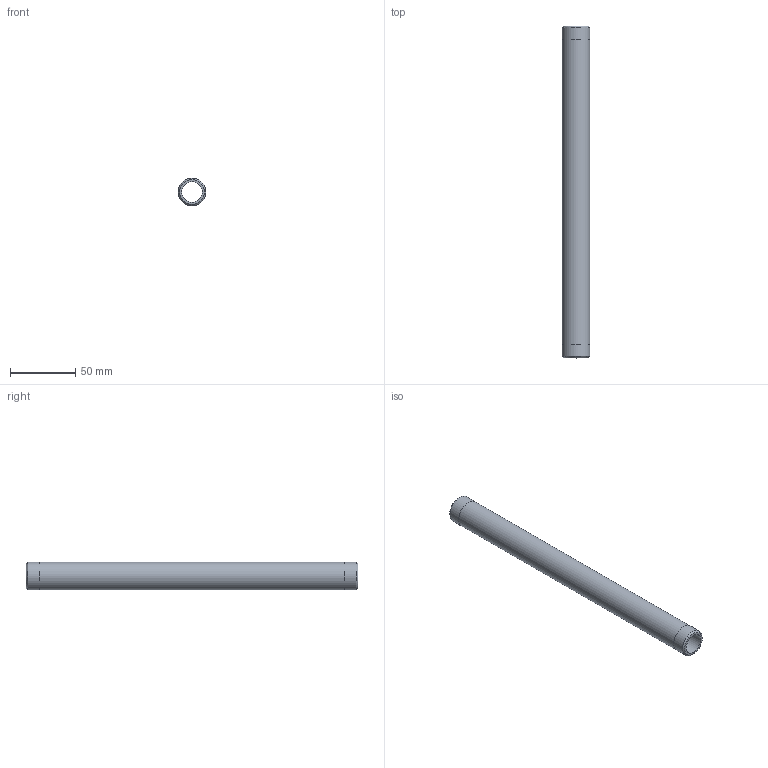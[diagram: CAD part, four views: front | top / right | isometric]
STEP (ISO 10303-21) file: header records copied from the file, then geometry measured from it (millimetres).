
FILE_DESCRIPTION(/* description */ (''),/* implementation_level */ '2;1');
FILE_NAME(/* name */ 'C:/Users/drich/Desktop/SSPN12-10 v1.step',/* time_stamp */ '2020-01-04T13:00:00-06:00',/* author */ (''),/* organization */ (''),/* preprocessor_version */ 'ST-DEVELOPER v18',/* originating_system */ 'Autodesk Translation Framework v8.12.0.6',/* authorisation */ '');
FILE_SCHEMA (('AUTOMOTIVE_DESIGN { 1 0 10303 214 3 1 1 }'));
Length unit declared in the file: inch
Products named in the file (1): SSPN12-10
Bounding box: 21.34 x 254 x 21.34 mm (x, y, z)
Volume: 40899.4 mm3; surface area: 29858.9 mm2
Topology: 1 solids, 1 shells, 10 faces, 24 edges, 18 vertices
Faces by surface type: cylinder 4, plane 4, cone 2
Full cylindrical faces by diameter (mm): 15.799 x1, 21.285 x2, 21.336 x1
Entity records: 353 total; most frequent: DIRECTION 64, CARTESIAN_POINT 53, ORIENTED_EDGE 48, AXIS2_PLACEMENT_3D 29, EDGE_CURVE 24, CIRCLE 18, VERTEX_POINT 18, EDGE_LOOP 14
